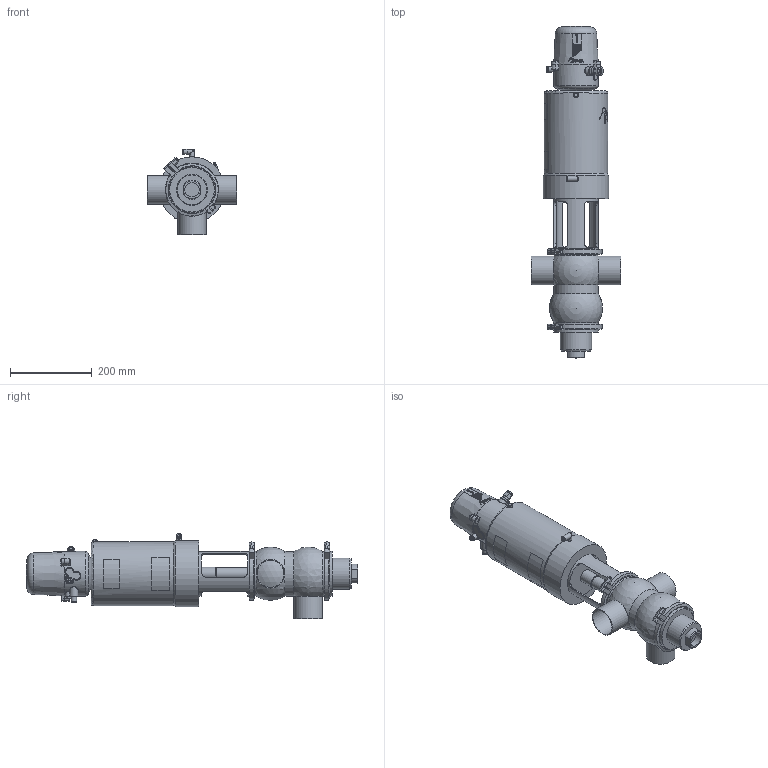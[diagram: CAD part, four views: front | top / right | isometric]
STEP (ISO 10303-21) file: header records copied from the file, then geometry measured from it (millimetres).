
FILE_DESCRIPTION (( 'STEP AP214' ), '1' );
FILE_NAME ('INNOVA S AB-90 W DIN 065 & C-TOP S_10.251.16.0011.STEP', '2024-08-19T11:01:13', ( '' ), ( '' ), 'SwSTEP 2.0', 'SolidWorks 2023', '' );
FILE_SCHEMA (( 'AUTOMOTIVE_DESIGN' ));
Length unit declared in the file: millimetre
Products named in the file (7): 10.251.15.0003_DIN 065; 10.251.15.0002_DN 065; 10.251.15.0001_DN 065; 10.240.15.0001_DN 065; 10.250.15.0002_Type S T2; INNOVA S AB-90 W DIN 065 & C-TOP S_10.251.16.0011; 10.426.15.0001_C-TOP S - 1 EV
Assembly tree (7 placements, depth 2):
  INNOVA S AB-90 W DIN 065 & C-TOP S_10.251.16.0011
    10.251.15.0001_DN 065
    10.250.15.0002_Type S T2
    10.426.15.0001_C-TOP S - 1 EV
    10.251.15.0003_DIN 065
    10.240.15.0001_DN 065  x2
    10.251.15.0002_DN 065
Bounding box: 220 x 812 x 209 mm (x, y, z)
Volume: 9410061.9 mm3; surface area: 587532.3 mm2
Topology: 7 solids, 7 shells, 1191 faces, 2867 edges, 1906 vertices
Faces by surface type: plane 416, cylinder 371, cone 202, bspline 160, torus 33, sphere 9
Full cylindrical faces by diameter (mm): 0.371 x17, 0.512 x16, 0.658 x16, 0.795 x16, 0.94 x15, 1.098 x15, 1.241 x13, 1.382 x13, 1.523 x11, 1.669 x10, 2.201 x1, 4.2 x2, 5 x1, 5.5 x2, 6 x3, 6.15 x1, 8 x5, 8.5 x1, 10 x1, 10.5 x2, 11 x2, 12.5 x6, 13 x2, 13.5 x2, 17 x3, 20 x2, 22 x2, 30.5 x1, 32 x1, 35 x1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
Entity records: 59425 total; most frequent: CARTESIAN_POINT 28534, ORIENTED_EDGE 4592, DIRECTION 3715, EDGE_CURVE 2296, VERTEX_POINT 1628, EDGE_LOOP 1592, AXIS2_PLACEMENT_3D 1518, FACE_OUTER_BOUND 1348
